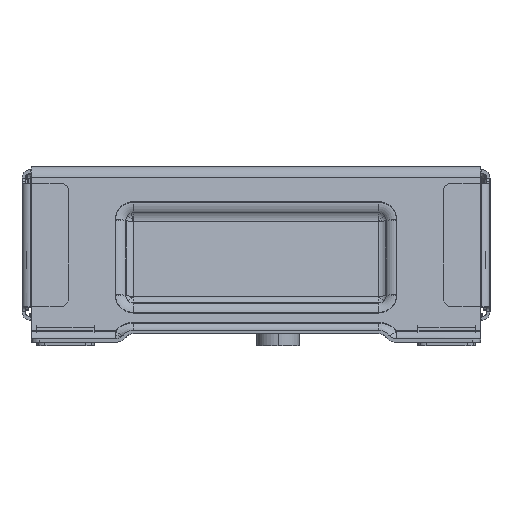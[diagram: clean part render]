
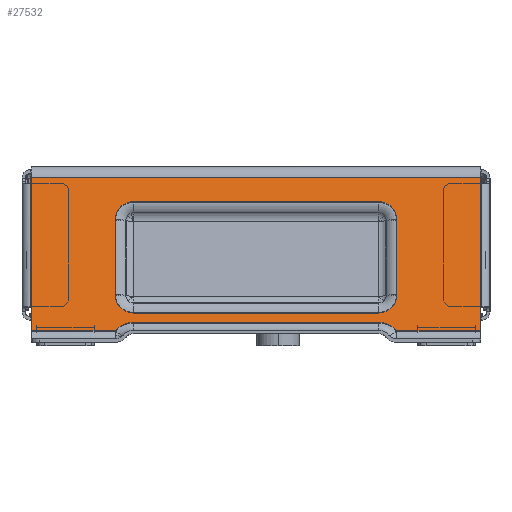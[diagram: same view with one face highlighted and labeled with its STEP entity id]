
A CAD part, left-side view. The second image highlights one B-rep face of the part: STEP entity #27532.
In plain terms, the highlighted planar face has unit normal (-0.979, 0, 0.203).
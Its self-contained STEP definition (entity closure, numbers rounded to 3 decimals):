
#27409=AXIS2_PLACEMENT_3D('Plane Axis2P3D',#27406,#27407,#27408) ;
#27477=AXIS2_PLACEMENT_3D('Circle Axis2P3D',#27475,#27476,$) ;
#27491=AXIS2_PLACEMENT_3D('Circle Axis2P3D',#27489,#27490,$) ;
#27505=AXIS2_PLACEMENT_3D('Circle Axis2P3D',#27503,#27504,$) ;
#27519=AXIS2_PLACEMENT_3D('Circle Axis2P3D',#27517,#27518,$) ;
#26247=CARTESIAN_POINT('Vertex',(-474.382,-861.,100.023)) ;
#26250=CARTESIAN_POINT('Line Origine',(-483.738,-861.,54.853)) ;
#26254=CARTESIAN_POINT('Vertex',(-493.095,-861.,9.683)) ;
#26630=CARTESIAN_POINT('Vertex',(-493.095,-597.,9.683)) ;
#26633=CARTESIAN_POINT('Line Origine',(-483.738,-597.,54.853)) ;
#26637=CARTESIAN_POINT('Vertex',(-474.382,-597.,100.023)) ;
#27394=CARTESIAN_POINT('Line Origine',(-474.382,-729.,100.023)) ;
#27406=CARTESIAN_POINT('Axis2P3D Location',(-473.061,-729.,106.4)) ;
#27411=CARTESIAN_POINT('Line Origine',(-492.059,-729.,14.683)) ;
#27415=CARTESIAN_POINT('Vertex',(-492.059,-801.,14.683)) ;
#27417=CARTESIAN_POINT('Vertex',(-492.059,-657.,14.683)) ;
#27421=CARTESIAN_POINT('Control Point',(-493.095,-811.724,9.683)) ;
#27422=CARTESIAN_POINT('Control Point',(-492.894,-810.911,10.653)) ;
#27423=CARTESIAN_POINT('Control Point',(-492.711,-809.985,11.533)) ;
#27424=CARTESIAN_POINT('Control Point',(-492.551,-808.959,12.307)) ;
#27425=CARTESIAN_POINT('Control Point',(-492.293,-806.842,13.553)) ;
#27426=CARTESIAN_POINT('Control Point',(-492.135,-804.498,14.315)) ;
#27427=CARTESIAN_POINT('Control Point',(-492.084,-803.344,14.56)) ;
#27428=CARTESIAN_POINT('Control Point',(-492.059,-802.172,14.683)) ;
#27429=CARTESIAN_POINT('Control Point',(-492.059,-801.,14.683)) ;
#27430=CARTESIAN_POINT('Vertex',(-493.095,-811.724,9.683)) ;
#27433=CARTESIAN_POINT('Line Origine',(-493.095,-836.362,9.683)) ;
#27438=CARTESIAN_POINT('Line Origine',(-493.095,-621.639,9.683)) ;
#27442=CARTESIAN_POINT('Vertex',(-493.095,-646.277,9.683)) ;
#27446=CARTESIAN_POINT('Control Point',(-492.059,-657.,14.683)) ;
#27447=CARTESIAN_POINT('Control Point',(-492.059,-655.728,14.683)) ;
#27448=CARTESIAN_POINT('Control Point',(-492.089,-654.456,14.539)) ;
#27449=CARTESIAN_POINT('Control Point',(-492.149,-653.207,14.249)) ;
#27450=CARTESIAN_POINT('Control Point',(-492.32,-650.884,13.424)) ;
#27451=CARTESIAN_POINT('Control Point',(-492.589,-648.803,12.124)) ;
#27452=CARTESIAN_POINT('Control Point',(-492.74,-647.872,11.395)) ;
#27453=CARTESIAN_POINT('Control Point',(-492.909,-647.027,10.577)) ;
#27454=CARTESIAN_POINT('Control Point',(-493.095,-646.277,9.683)) ;
#27466=CARTESIAN_POINT('Line Origine',(-477.377,-729.,85.561)) ;
#27470=CARTESIAN_POINT('Vertex',(-477.377,-801.,85.561)) ;
#27472=CARTESIAN_POINT('Vertex',(-477.377,-657.,85.561)) ;
#27475=CARTESIAN_POINT('Axis2P3D Location',(-479.552,-801.,75.06)) ;
#27479=CARTESIAN_POINT('Vertex',(-479.552,-811.724,75.06)) ;
#27482=CARTESIAN_POINT('Line Origine',(-484.11,-811.724,53.06)) ;
#27486=CARTESIAN_POINT('Vertex',(-488.667,-811.724,31.06)) ;
#27489=CARTESIAN_POINT('Axis2P3D Location',(-488.667,-801.,31.06)) ;
#27493=CARTESIAN_POINT('Vertex',(-490.842,-801.,20.559)) ;
#27496=CARTESIAN_POINT('Line Origine',(-490.842,-729.,20.559)) ;
#27500=CARTESIAN_POINT('Vertex',(-490.842,-657.,20.559)) ;
#27503=CARTESIAN_POINT('Axis2P3D Location',(-488.667,-657.,31.06)) ;
#27507=CARTESIAN_POINT('Vertex',(-488.667,-646.277,31.06)) ;
#27510=CARTESIAN_POINT('Line Origine',(-484.11,-646.277,53.06)) ;
#27514=CARTESIAN_POINT('Vertex',(-479.552,-646.277,75.06)) ;
#27517=CARTESIAN_POINT('Axis2P3D Location',(-479.552,-657.,75.06)) ;
#26251=DIRECTION('Vector Direction',(-0.203,0.,-0.979)) ;
#26634=DIRECTION('Vector Direction',(-0.203,0.,-0.979)) ;
#27395=DIRECTION('Vector Direction',(0.,1.,0.)) ;
#27407=DIRECTION('Axis2P3D Direction',(0.979,0.,-0.203)) ;
#27408=DIRECTION('Axis2P3D XDirection',(-0.203,0.,-0.979)) ;
#27412=DIRECTION('Vector Direction',(0.,-1.,0.)) ;
#27434=DIRECTION('Vector Direction',(0.,1.,0.)) ;
#27439=DIRECTION('Vector Direction',(0.,1.,0.)) ;
#27467=DIRECTION('Vector Direction',(0.,-1.,0.)) ;
#27476=DIRECTION('Axis2P3D Direction',(0.979,0.,-0.203)) ;
#27483=DIRECTION('Vector Direction',(-0.203,0.,-0.979)) ;
#27490=DIRECTION('Axis2P3D Direction',(0.979,0.,-0.203)) ;
#27497=DIRECTION('Vector Direction',(0.,1.,0.)) ;
#27504=DIRECTION('Axis2P3D Direction',(0.979,0.,-0.203)) ;
#27511=DIRECTION('Vector Direction',(0.203,0.,0.979)) ;
#27518=DIRECTION('Axis2P3D Direction',(0.979,0.,-0.203)) ;
#26252=VECTOR('Line Direction',#26251,1.) ;
#26635=VECTOR('Line Direction',#26634,1.) ;
#27396=VECTOR('Line Direction',#27395,1.) ;
#27413=VECTOR('Line Direction',#27412,1.) ;
#27435=VECTOR('Line Direction',#27434,1.) ;
#27440=VECTOR('Line Direction',#27439,1.) ;
#27468=VECTOR('Line Direction',#27467,1.) ;
#27484=VECTOR('Line Direction',#27483,1.) ;
#27498=VECTOR('Line Direction',#27497,1.) ;
#27512=VECTOR('Line Direction',#27511,1.) ;
#27457=ORIENTED_EDGE('',*,*,#27419,.F.) ;
#27458=ORIENTED_EDGE('',*,*,#27432,.F.) ;
#27459=ORIENTED_EDGE('',*,*,#27437,.F.) ;
#27460=ORIENTED_EDGE('',*,*,#26256,.F.) ;
#27461=ORIENTED_EDGE('',*,*,#27398,.T.) ;
#27462=ORIENTED_EDGE('',*,*,#26639,.T.) ;
#27463=ORIENTED_EDGE('',*,*,#27444,.F.) ;
#27464=ORIENTED_EDGE('',*,*,#27455,.F.) ;
#27523=ORIENTED_EDGE('',*,*,#27474,.F.) ;
#27524=ORIENTED_EDGE('',*,*,#27481,.F.) ;
#27525=ORIENTED_EDGE('',*,*,#27488,.F.) ;
#27526=ORIENTED_EDGE('',*,*,#27495,.F.) ;
#27527=ORIENTED_EDGE('',*,*,#27502,.F.) ;
#27528=ORIENTED_EDGE('',*,*,#27509,.F.) ;
#27529=ORIENTED_EDGE('',*,*,#27516,.F.) ;
#27530=ORIENTED_EDGE('',*,*,#27521,.F.) ;
#27531=FACE_BOUND('',#27522,.T.) ;
#27532=ADVANCED_FACE('SHT0016145-\X2\5BBD8F664E3B9A7E9A76524D4FA794A391D1\X0\',(#27465,#27531),#27410,.F.) ;
#27420=B_SPLINE_CURVE_WITH_KNOTS('',5,(#27421,#27422,#27423,#27424,#27425,#27426,#27427,#27428,#27429),.UNSPECIFIED.,.F.,.U.,(6,3,6),(0.,9.155,17.5),.UNSPECIFIED.) ;
#27445=B_SPLINE_CURVE_WITH_KNOTS('',5,(#27446,#27447,#27448,#27449,#27450,#27451,#27452,#27453,#27454),.UNSPECIFIED.,.F.,.U.,(6,3,6),(0.,9.059,17.5),.UNSPECIFIED.) ;
#27478=CIRCLE('generated circle',#27477,10.724) ;
#27492=CIRCLE('generated circle',#27491,10.724) ;
#27506=CIRCLE('generated circle',#27505,10.724) ;
#27520=CIRCLE('generated circle',#27519,10.724) ;
#26256=EDGE_CURVE('',#26248,#26255,#26253,.T.) ;
#26639=EDGE_CURVE('',#26638,#26631,#26636,.T.) ;
#27398=EDGE_CURVE('',#26248,#26638,#27397,.T.) ;
#27419=EDGE_CURVE('',#27416,#27418,#27414,.F.) ;
#27432=EDGE_CURVE('',#27431,#27416,#27420,.T.) ;
#27437=EDGE_CURVE('',#26255,#27431,#27436,.T.) ;
#27444=EDGE_CURVE('',#27443,#26631,#27441,.T.) ;
#27455=EDGE_CURVE('',#27418,#27443,#27445,.T.) ;
#27474=EDGE_CURVE('',#27471,#27473,#27469,.F.) ;
#27481=EDGE_CURVE('',#27480,#27471,#27478,.F.) ;
#27488=EDGE_CURVE('',#27487,#27480,#27485,.F.) ;
#27495=EDGE_CURVE('',#27494,#27487,#27492,.F.) ;
#27502=EDGE_CURVE('',#27501,#27494,#27499,.F.) ;
#27509=EDGE_CURVE('',#27508,#27501,#27506,.F.) ;
#27516=EDGE_CURVE('',#27515,#27508,#27513,.F.) ;
#27521=EDGE_CURVE('',#27473,#27515,#27520,.F.) ;
#27456=EDGE_LOOP('',(#27457,#27458,#27459,#27460,#27461,#27462,#27463,#27464)) ;
#27522=EDGE_LOOP('',(#27523,#27524,#27525,#27526,#27527,#27528,#27529,#27530)) ;
#27465=FACE_OUTER_BOUND('',#27456,.T.) ;
#26253=LINE('Line',#26250,#26252) ;
#26636=LINE('Line',#26633,#26635) ;
#27397=LINE('Line',#27394,#27396) ;
#27414=LINE('Line',#27411,#27413) ;
#27436=LINE('Line',#27433,#27435) ;
#27441=LINE('Line',#27438,#27440) ;
#27469=LINE('Line',#27466,#27468) ;
#27485=LINE('Line',#27482,#27484) ;
#27499=LINE('Line',#27496,#27498) ;
#27513=LINE('Line',#27510,#27512) ;
#27410=PLANE('Plane',#27409) ;
#26248=VERTEX_POINT('',#26247) ;
#26255=VERTEX_POINT('',#26254) ;
#26631=VERTEX_POINT('',#26630) ;
#26638=VERTEX_POINT('',#26637) ;
#27416=VERTEX_POINT('',#27415) ;
#27418=VERTEX_POINT('',#27417) ;
#27431=VERTEX_POINT('',#27430) ;
#27443=VERTEX_POINT('',#27442) ;
#27471=VERTEX_POINT('',#27470) ;
#27473=VERTEX_POINT('',#27472) ;
#27480=VERTEX_POINT('',#27479) ;
#27487=VERTEX_POINT('',#27486) ;
#27494=VERTEX_POINT('',#27493) ;
#27501=VERTEX_POINT('',#27500) ;
#27508=VERTEX_POINT('',#27507) ;
#27515=VERTEX_POINT('',#27514) ;
